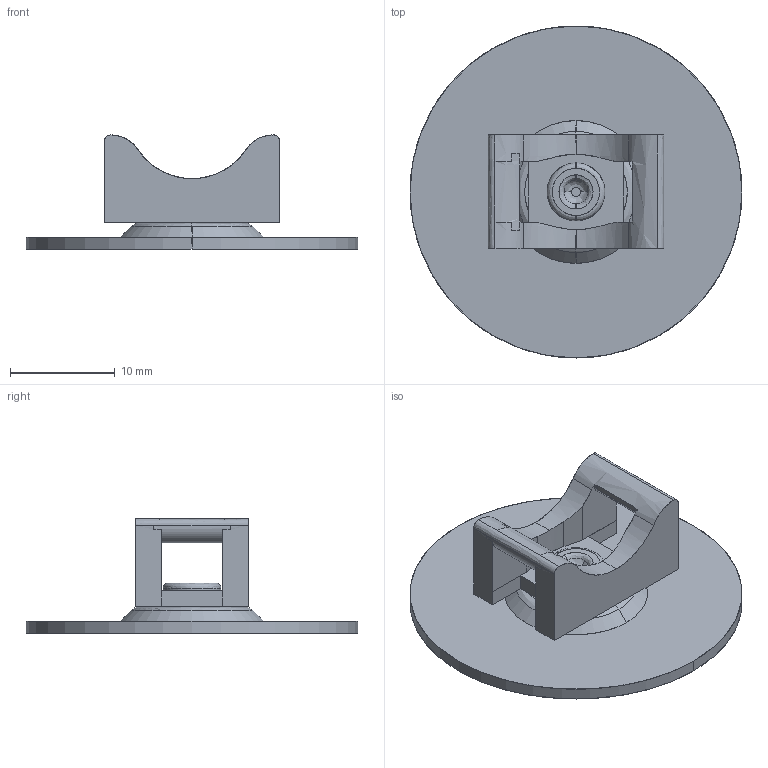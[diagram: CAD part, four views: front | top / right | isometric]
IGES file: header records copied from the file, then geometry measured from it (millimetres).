
Start section: SolidWorks IGES file using analytic representation for surfaces
Global section: file name: E:\billdocs\3D Models\IGES\cb3019\cb3019aa3v.IGS; native system: SolidWorks 2015; preprocessor: SolidWorks 2015; author: bperez; date: 150717.104811; units: inch
Bounding box: 31.75 x 31.75 x 10.92 mm (x, y, z)
Surface area: 2811 mm2 (no closed solid volume)
Topology: 0 solids, 0 shells, 96 faces, 1255 edges, 1255 vertices
Faces by surface type: bspline 59, revolution 37
